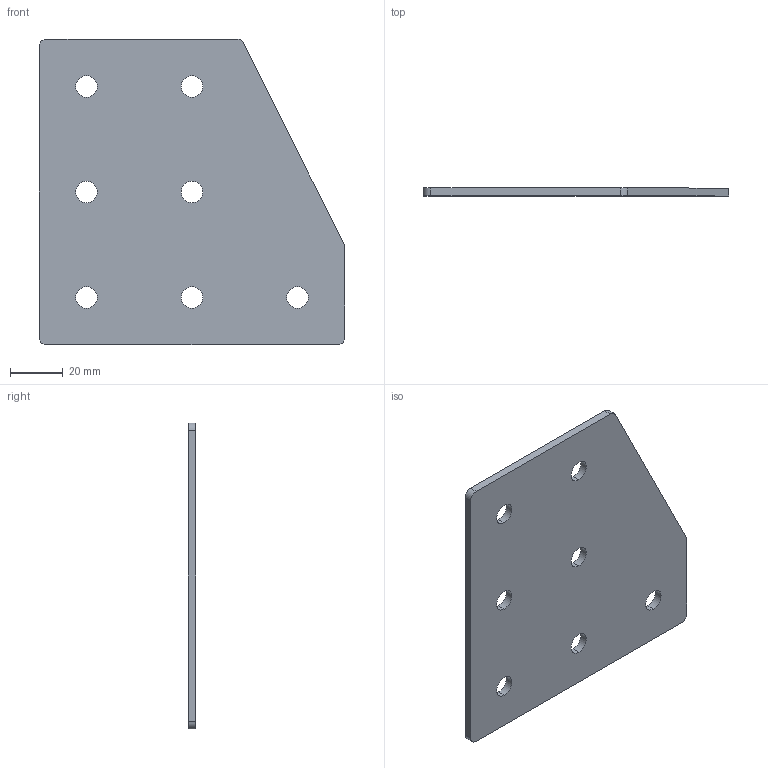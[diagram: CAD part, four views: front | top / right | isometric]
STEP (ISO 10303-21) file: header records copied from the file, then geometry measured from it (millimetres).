
FILE_DESCRIPTION (( 'STEP AP203' ), '1' );
FILE_NAME ('ﾃ-7-ﾓ-40.STEP', '2016-07-20T13:07:21', ( '' ), ( '' ), 'SwSTEP 2.0', 'SolidWorks 2014', '' );
FILE_SCHEMA (( 'CONFIG_CONTROL_DESIGN' ));
Length unit declared in the file: millimetre
Products named in the file (1): ﾃ-7-ﾓ-40
Bounding box: 116 x 3 x 116 mm (x, y, z)
Surface area: 24911.1 mm2 (no closed solid volume)
Topology: 0 solids, 1 shells, 26 faces, 72 edges, 48 vertices
Faces by surface type: cylinder 19, plane 7
Entity records: 959 total; most frequent: DIRECTION 164, CARTESIAN_POINT 147, ORIENTED_EDGE 144, EDGE_CURVE 72, AXIS2_PLACEMENT_3D 65, VERTEX_POINT 48, EDGE_LOOP 40, CIRCLE 38
